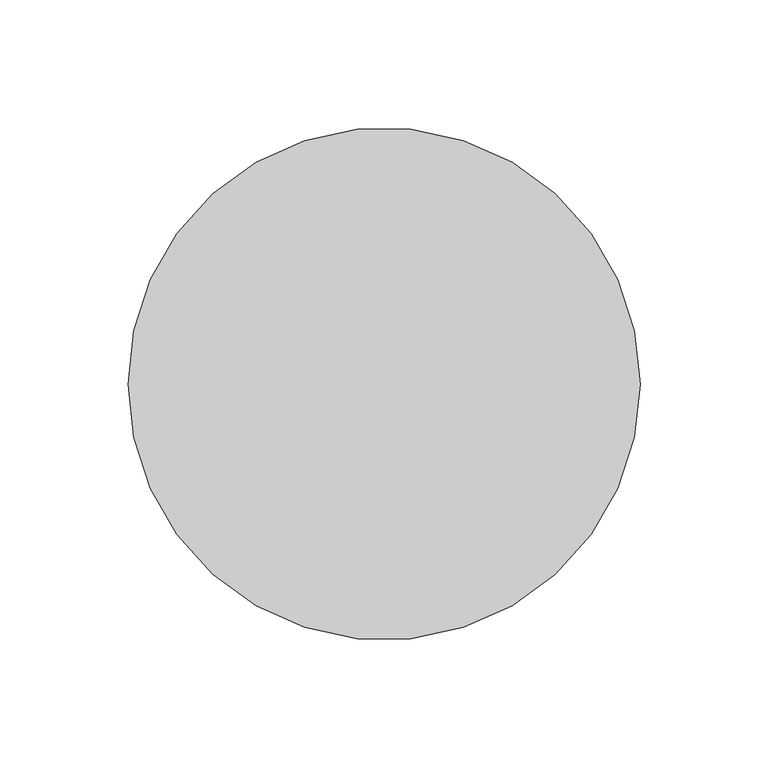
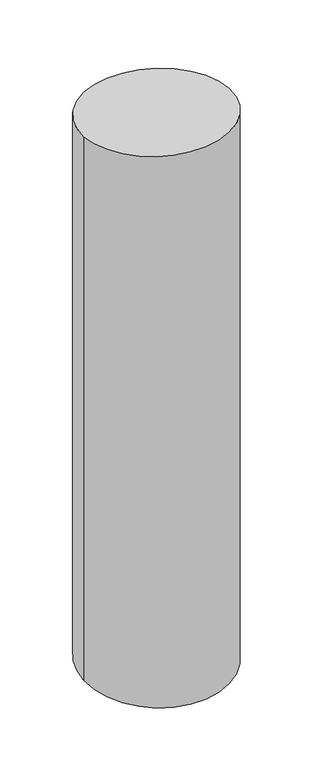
"""IFC4 building model written with IfcOpenShell, lengths in millimetres: member geometry, 矩形竖梃 : 圆瓦."""

from ifc_helpers import new_model, si_unit, frame, origin, origin_with_axes, place, context, project, spatial, ellipse_curve, source, transform, mapped, element, save
from ifc_brep_helpers import plane_surface, cylinder_surface, advanced_brep


def member_ee4a1047(model_context):
    return source(origin(), model_context, "Body", "AdvancedBrep", [
        advanced_brep(
        [(-100.0, 0.0, 0.0), (100.0, 0.0, 0.0), (100.0, 0.0, -790.1124317), (-100.0, 0.0, -790.1124317)],
        [
            (0, 1, ellipse_curve(frame((0.0, 0.0, 0.0), z_axis=(0.0, -0.06767279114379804, -0.9977075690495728), x_axis=(0.0, -0.9977075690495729, 0.06767279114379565)), 100.2297698, 100.0)),
            (1, 2),
            (2, 3, ellipse_curve(frame((0.0, 0.0, -790.1124317), z_axis=(0.0, -0.06558371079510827, 0.9978470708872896), x_axis=(0.0, 0.9978470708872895, 0.06558371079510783)), 100.2157574, 100.0)),
            (3, 0),
            (1, 0, ellipse_curve(frame((0.0, 0.0, 0.0), z_axis=(0.0, -0.06767279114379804, -0.9977075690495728), x_axis=(0.0, -0.9977075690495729, 0.06767279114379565)), 100.2297698, 100.0)),
            (3, 2, ellipse_curve(frame((0.0, 0.0, -790.1124317), z_axis=(0.0, -0.06558371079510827, 0.9978470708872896), x_axis=(0.0, 0.9978470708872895, 0.06558371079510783)), 100.2157574, 100.0)),
        ],
        [
            cylinder_surface(origin_with_axes(), 100.0),
            plane_surface(frame((-304.8, 0.0, 0.0), z_axis=(0.0, 0.06767279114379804, 0.9977075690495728), x_axis=(0.0, 0.9977075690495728, -0.06767279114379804))),
            plane_surface(frame((-304.8, 0.0, -790.1124317), z_axis=(0.0, 0.06558371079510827, -0.9978470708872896), x_axis=(0.0, 0.9978470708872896, 0.06558371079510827))),
        ],
        [
            (0, [[1, 2, 3, 4]]),
            (0, [[5, -4, 6, -2]]),
            (1, [[-1, -5]]),
            (2, [[-6, -3]]),
        ],
    ),
    ])


if __name__ == "__main__":
    model = new_model("IFC4")
    model_context = context("Model", 3, world=origin())
    ifc_project = project(units=[si_unit("LENGTHUNIT", "METRE", prefix="MILLI")], contexts=[model_context])
    site = spatial("IfcSite", under=ifc_project)
    building = spatial("IfcBuilding", under=site)
    placement = place(None, origin())
    member_shape = member_ee4a1047(model_context)
    element("IfcMember", 1, ObjectType="矩形竖梃 : 圆瓦", at=placement, inside=building, context=model_context, shape_type="MappedRepresentation", body=[
        mapped(member_shape, transform((0.0, 0.0, 0.0), x_axis=(1.0, 0.0, 0.0), y_axis=(0.0, 1.0, 0.0), z_axis=(0.0, 0.0, 1.0))),
    ])
    save(model, "model.ifc")
